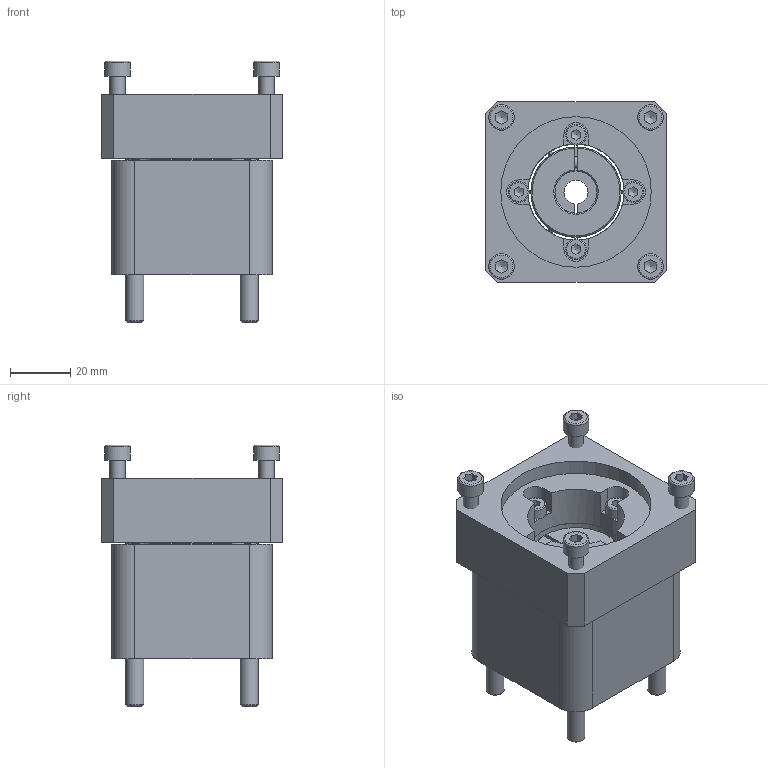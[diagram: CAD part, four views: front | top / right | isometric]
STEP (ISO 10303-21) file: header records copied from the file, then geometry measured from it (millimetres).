
FILE_DESCRIPTION(/* description */ ('EAMK-A O - Kupplungsgehäuse'),/* implementation_level */ '2;1');
FILE_NAME(/* name */ 'C:\STORE\ホームページ用データ\\X2\30E230FC30BF53D64ED830AD30C330C8\X0\_2016_追加\3D_STEP\J08210A.stp',/* time_stamp */ '2016-03-08T14:26:03+09:00',/* author */ ('jp4te01'),/* organization */ (''),/* preprocessor_version */ 'ST-DEVELOPER v15.6',/* originating_system */ 'Autodesk Inventor 2015',/* authorisation */ '');
FILE_SCHEMA (('AUTOMOTIVE_DESIGN { 1 0 10303 214 3 1 1 }'));
Length unit declared in the file: millimetre
Products named in the file (8): 552157_EAMK_A_D40_44_1O_; DIN_912___M6x30_F_; 552157_EAMK_A_D40_44; J06577B; 562682_EAMC_30_32_8_14; コピー版 JIS B 1176 - M4 x 15; コピー版 JIS B 1176 - M5 x 15; J08210A
Bounding box: 60 x 60 x 86.9 mm (x, y, z)
Volume: 136090.3 mm3; surface area: 51673.2 mm2
Topology: 15 solids, 15 shells, 467 faces, 1116 edges, 705 vertices
Faces by surface type: plane 240, cylinder 115, cone 90, torus 22
Full cylindrical faces by diameter (mm): 2 x12, 3.242 x6, 4 x6, 4.134 x4, 4.5 x4, 5 x4, 6 x4, 6.5 x4, 7 x4, 8.5 x4, 10 x4, 14.2 x1, 32 x1, 40 x1, 44 x1, 50 x1
Entity records: 8895 total; most frequent: CARTESIAN_POINT 1831, DIRECTION 1506, ORIENTED_EDGE 1296, EDGE_CURVE 648, AXIS2_PLACEMENT_3D 605, VERTEX_POINT 462, EDGE_LOOP 422, LINE 296
